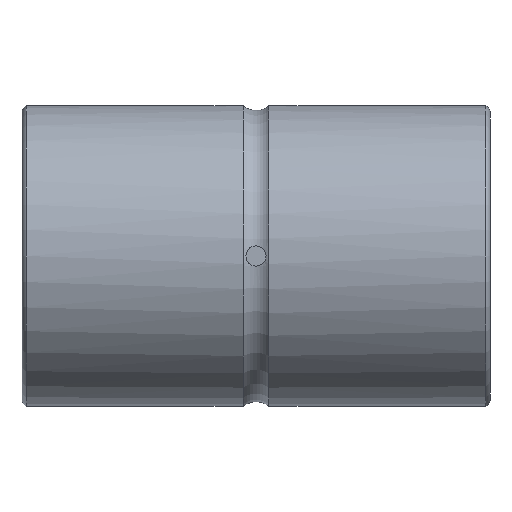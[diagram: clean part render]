
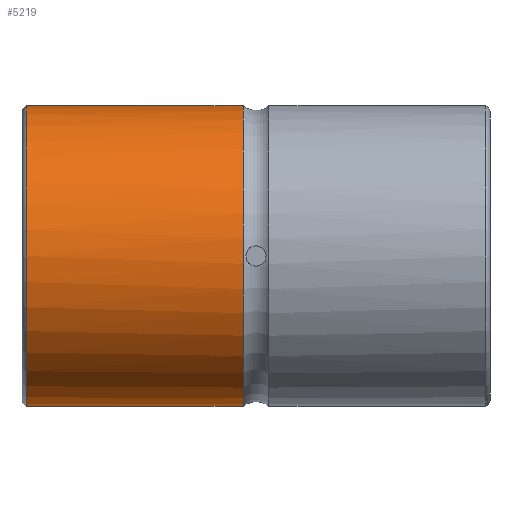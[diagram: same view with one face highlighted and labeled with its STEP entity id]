
A CAD part, front view. The second image highlights one B-rep face of the part: STEP entity #5219.
In plain terms, the highlighted cylindrical face has radius 22.5 mm (diameter 45 mm), a full revolution.
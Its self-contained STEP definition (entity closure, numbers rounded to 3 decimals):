
#23=B_SPLINE_CURVE_WITH_KNOTS('',3,(#8391,#8392,#8393,#8394,#8395,#8396,
#8397),.UNSPECIFIED.,.F.,.F.,(4,1,1,1,4),(0.,0.003,0.005,
0.008,0.011),.UNSPECIFIED.);
#472=LINE('',#8400,#1010);
#473=LINE('',#8401,#1011);
#1010=VECTOR('',#6743,1000.);
#1011=VECTOR('',#6744,1000.);
#1918=ORIENTED_EDGE('',*,*,#3255,.T.);
#1919=ORIENTED_EDGE('',*,*,#3256,.T.);
#1920=ORIENTED_EDGE('',*,*,#3248,.F.);
#1921=ORIENTED_EDGE('',*,*,#3257,.T.);
#1922=ORIENTED_EDGE('',*,*,#3254,.T.);
#3248=EDGE_CURVE('',#3914,#3915,#4291,.T.);
#3254=EDGE_CURVE('',#3920,#3920,#4293,.T.);
#3255=EDGE_CURVE('',#3921,#3922,#23,.T.);
#3256=EDGE_CURVE('',#3922,#3915,#472,.T.);
#3257=EDGE_CURVE('',#3914,#3921,#473,.F.);
#3914=VERTEX_POINT('',#8345);
#3915=VERTEX_POINT('',#8346);
#3920=VERTEX_POINT('',#8389);
#3921=VERTEX_POINT('',#8398);
#3922=VERTEX_POINT('',#8399);
#4291=CIRCLE('',#5696,22.5);
#4293=CIRCLE('',#5699,22.5);
#4473=EDGE_LOOP('',(#1918,#1919,#1920,#1921));
#4474=EDGE_LOOP('',(#1922));
#4801=FACE_BOUND('',#4473,.T.);
#4802=FACE_BOUND('',#4474,.T.);
#5070=CYLINDRICAL_SURFACE('',#5700,22.5);
#5219=ADVANCED_FACE('',(#4801,#4802),#5070,.T.);
#5696=AXIS2_PLACEMENT_3D('',#8344,#6733,#6734);
#5699=AXIS2_PLACEMENT_3D('',#8388,#6739,#6740);
#5700=AXIS2_PLACEMENT_3D('',#8390,#6741,#6742);
#6733=DIRECTION('',(1.,0.,0.));
#6734=DIRECTION('',(0.,0.,-1.));
#6739=DIRECTION('',(1.,0.,0.));
#6740=DIRECTION('',(0.,0.,-1.));
#6741=DIRECTION('',(1.,0.,0.));
#6742=DIRECTION('',(0.,0.,-1.));
#6743=DIRECTION('',(1.,0.,0.));
#6744=DIRECTION('',(1.,0.,0.));
#8344=CARTESIAN_POINT('',(-1.925,0.,0.));
#8345=CARTESIAN_POINT('',(-1.925,22.226,3.5));
#8346=CARTESIAN_POINT('',(-1.925,22.226,-3.5));
#8388=CARTESIAN_POINT('',(-34.38,0.,0.));
#8389=CARTESIAN_POINT('',(-34.38,0.,-22.5));
#8390=CARTESIAN_POINT('',(35.,0.,0.));
#8391=CARTESIAN_POINT('',(-17.,22.226,3.5));
#8392=CARTESIAN_POINT('',(-17.926,22.226,3.5));
#8393=CARTESIAN_POINT('',(-19.737,22.364,2.741));
#8394=CARTESIAN_POINT('',(-20.881,22.568,0.004));
#8395=CARTESIAN_POINT('',(-19.739,22.364,-2.741));
#8396=CARTESIAN_POINT('',(-17.926,22.226,-3.5));
#8397=CARTESIAN_POINT('',(-17.,22.226,-3.5));
#8398=CARTESIAN_POINT('',(-17.,22.226,3.5));
#8399=CARTESIAN_POINT('',(-17.,22.226,-3.5));
#8400=CARTESIAN_POINT('',(35.,22.226,-3.5));
#8401=CARTESIAN_POINT('',(35.,22.226,3.5));
